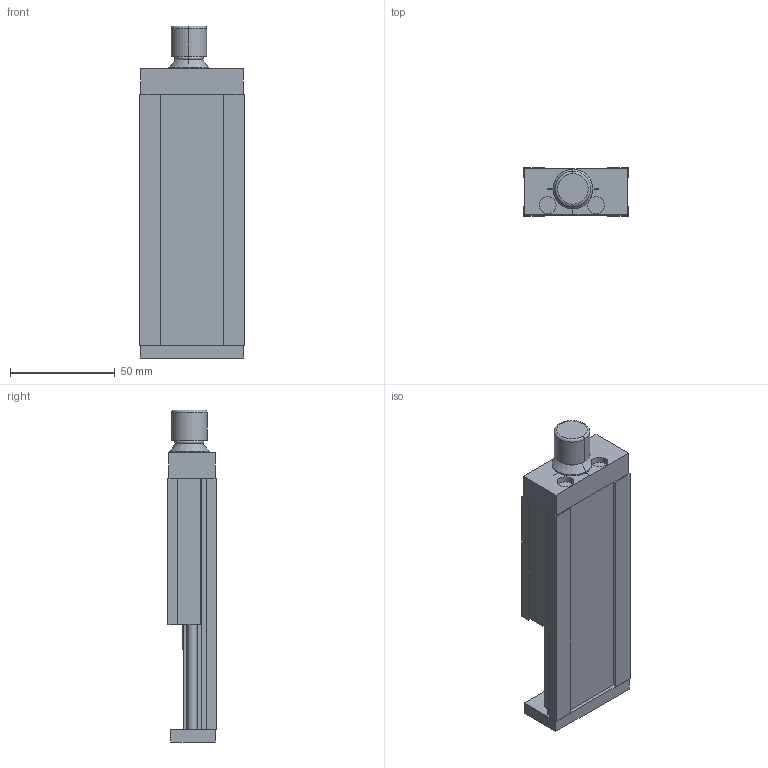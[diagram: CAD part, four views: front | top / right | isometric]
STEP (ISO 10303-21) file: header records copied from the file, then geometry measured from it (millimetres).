
FILE_DESCRIPTION (( 'STEP AP203' ), '1' );
FILE_NAME ('domiLINE 50.STEP', '2002-07-08T12:44:00', ( '' ), ( '' ), 'SwSTEP 2.0', 'SolidWorks 2002127', '' );
FILE_SCHEMA (( 'CONFIG_CONTROL_DESIGN' ));
Length unit declared in the file: millimetre
Products named in the file (3): domiLINE 50; dL 50 light-+-D018335_ _Hub 50; Aussenschlitten 50-+-D009143_ _Standard
Assembly tree (2 placements, depth 2):
  domiLINE 50
    Aussenschlitten 50-+-D009143_ _Standard
    dL 50 light-+-D018335_ _Hub 50
Bounding box: 50 x 23 x 158.5 mm (x, y, z)
Volume: 106541.3 mm3; surface area: 45645.8 mm2
Topology: 2 solids, 2 shells, 141 faces, 364 edges, 238 vertices
Faces by surface type: plane 100, cylinder 35, torus 4, cone 2
Entity records: 4591 total; most frequent: CARTESIAN_POINT 748, DIRECTION 736, ORIENTED_EDGE 728, EDGE_CURVE 364, LINE 284, VECTOR 284, VERTEX_POINT 238, AXIS2_PLACEMENT_3D 226
